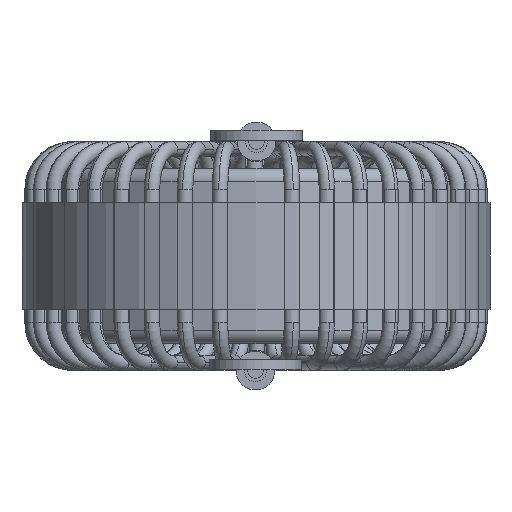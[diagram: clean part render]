
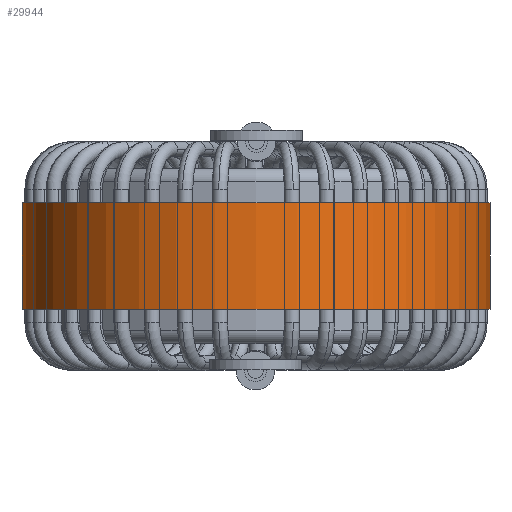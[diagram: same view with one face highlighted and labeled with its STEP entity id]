
A CAD part, front view. The second image highlights one B-rep face of the part: STEP entity #29944.
In plain terms, the highlighted cylindrical face has radius 35.055 mm (diameter 70.11 mm), a partial arc.
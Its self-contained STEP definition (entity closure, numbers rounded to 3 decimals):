
#868 = DIRECTION ( 'NONE',  ( 0., 0., 1. ) ) ;
#1139 = EDGE_CURVE ( 'NONE', #39496, #42752, #15284, .T. ) ;
#2313 = CYLINDRICAL_SURFACE ( 'NONE', #6197, 35.055 ) ;
#5986 = CIRCLE ( 'NONE', #23333, 35.055 ) ;
#6197 = AXIS2_PLACEMENT_3D ( 'NONE', #38119, #28081, #42414 ) ;
#8499 = ORIENTED_EDGE ( 'NONE', *, *, #1139, .T. ) ;
#12735 = CARTESIAN_POINT ( 'NONE',  ( -35.055, 0., 8. ) ) ;
#12893 = FACE_OUTER_BOUND ( 'NONE', #41564, .T. ) ;
#13508 = CIRCLE ( 'NONE', #33706, 35.055 ) ;
#15165 = DIRECTION ( 'NONE',  ( 0., 0., 1. ) ) ;
#15284 = LINE ( 'NONE', #12735, #17519 ) ;
#16702 = CARTESIAN_POINT ( 'NONE',  ( 35.055, 0., 8. ) ) ;
#17519 = VECTOR ( 'NONE', #37489, 1000. ) ;
#20408 = CARTESIAN_POINT ( 'NONE',  ( -35.055, 0., 8. ) ) ;
#21542 = EDGE_CURVE ( 'NONE', #39496, #39798, #5986, .T. ) ;
#22038 = ORIENTED_EDGE ( 'NONE', *, *, #28792, .T. ) ;
#22533 = ORIENTED_EDGE ( 'NONE', *, *, #21542, .F. ) ;
#23333 = AXIS2_PLACEMENT_3D ( 'NONE', #28948, #868, #25696 ) ;
#25696 = DIRECTION ( 'NONE',  ( 1., 0., 0. ) ) ;
#27704 = LINE ( 'NONE', #16702, #41535 ) ;
#28081 = DIRECTION ( 'NONE',  ( 0., 0., -1. ) ) ;
#28792 = EDGE_CURVE ( 'NONE', #42752, #29840, #13508, .T. ) ;
#28817 = DIRECTION ( 'NONE',  ( 1., 0., 0. ) ) ;
#28948 = CARTESIAN_POINT ( 'NONE',  ( 0., 0., 8. ) ) ;
#29099 = CARTESIAN_POINT ( 'NONE',  ( -35.055, 0., -8. ) ) ;
#29840 = VERTEX_POINT ( 'NONE', #44741 ) ;
#29944 = ADVANCED_FACE ( 'NONE', ( #12893 ), #2313, .T. ) ;
#33706 = AXIS2_PLACEMENT_3D ( 'NONE', #42846, #15165, #28817 ) ;
#34714 = ORIENTED_EDGE ( 'NONE', *, *, #44554, .F. ) ;
#37489 = DIRECTION ( 'NONE',  ( 0., 0., -1. ) ) ;
#38119 = CARTESIAN_POINT ( 'NONE',  ( 0., 0., 8. ) ) ;
#39496 = VERTEX_POINT ( 'NONE', #20408 ) ;
#39798 = VERTEX_POINT ( 'NONE', #43229 ) ;
#41535 = VECTOR ( 'NONE', #45408, 1000. ) ;
#41564 = EDGE_LOOP ( 'NONE', ( #34714, #22533, #8499, #22038 ) ) ;
#42414 = DIRECTION ( 'NONE',  ( -1., 0., 0. ) ) ;
#42752 = VERTEX_POINT ( 'NONE', #29099 ) ;
#42846 = CARTESIAN_POINT ( 'NONE',  ( 0., 0., -8. ) ) ;
#43229 = CARTESIAN_POINT ( 'NONE',  ( 35.055, 0., 8. ) ) ;
#44554 = EDGE_CURVE ( 'NONE', #39798, #29840, #27704, .T. ) ;
#44741 = CARTESIAN_POINT ( 'NONE',  ( 35.055, 0., -8. ) ) ;
#45408 = DIRECTION ( 'NONE',  ( 0., 0., -1. ) ) ;
